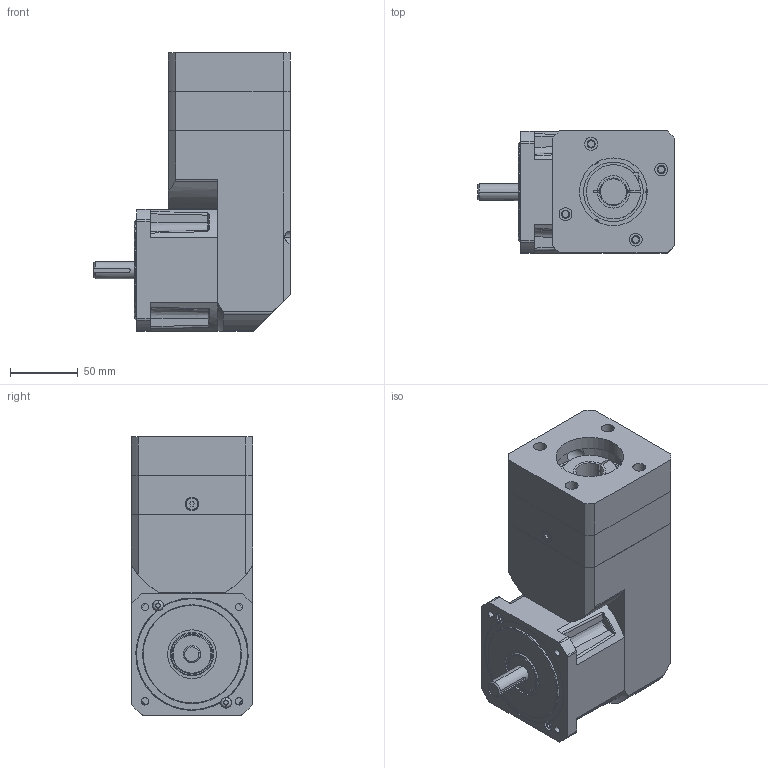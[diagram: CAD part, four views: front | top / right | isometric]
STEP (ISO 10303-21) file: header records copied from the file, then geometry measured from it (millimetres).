
FILE_DESCRIPTION((''),'2;1');
FILE_NAME('GEN_II_RX34_LONG_ADAPT','2008-11-20T',('aza7363'),(''),'PRO/ENGINEER BY PARAMETRIC TECHNOLOGY CORPORATION, 2006300','PRO/ENGINEER BY PARAMETRIC TECHNOLOGY CORPORATION, 2006300','');
FILE_SCHEMA(('CONFIG_CONTROL_DESIGN'));
Length unit declared in the file: millimetre
Products named in the file (1): GEN_II_RX34_LONG_ADAPT
Bounding box: 145.25 x 90 x 205.5 mm (x, y, z)
Surface area: 131347.5 mm2 (no closed solid volume)
Topology: 0 solids, 30 shells, 384 faces, 1121 edges, 770 vertices
Faces by surface type: plane 179, cylinder 137, bspline 35, cone 21, torus 12
Entity records: 14715 total; most frequent: CARTESIAN_POINT 4660, DIRECTION 2077, ORIENTED_EDGE 1930, EDGE_CURVE 1121, VERTEX_POINT 770, AXIS2_PLACEMENT_3D 759, VECTOR 559, LINE 559
